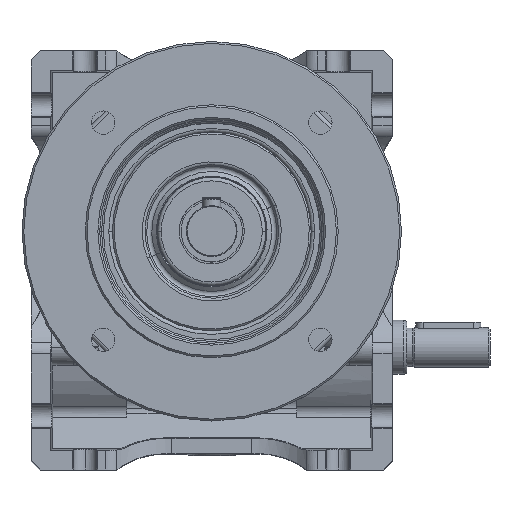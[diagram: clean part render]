
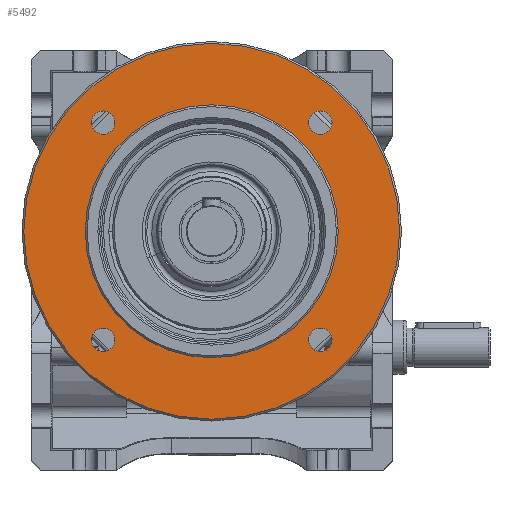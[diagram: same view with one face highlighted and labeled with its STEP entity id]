
A CAD part, top view. The second image highlights one B-rep face of the part: STEP entity #5492.
In plain terms, the highlighted planar face has unit normal (0, 0, 1).
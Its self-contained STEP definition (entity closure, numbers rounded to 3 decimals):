
#857 = ORIENTED_EDGE ( 'NONE', *, *, #40439, .F. ) ;
#1242 = AXIS2_PLACEMENT_3D ( 'NONE', #51030, #15722, #31452 ) ;
#1531 = DIRECTION ( 'NONE',  ( 1., 0., 0. ) ) ;
#1650 = FACE_BOUND ( 'NONE', #49412, .T. ) ;
#1905 = CIRCLE ( 'NONE', #35597, 52. ) ;
#3287 = CARTESIAN_POINT ( 'NONE',  ( 0., 0., 70. ) ) ;
#3717 = EDGE_LOOP ( 'NONE', ( #46247, #42535 ) ) ;
#3771 = CIRCLE ( 'NONE', #40823, 52. ) ;
#4002 = CARTESIAN_POINT ( 'NONE',  ( -35., 0., 70. ) ) ;
#4268 = AXIS2_PLACEMENT_3D ( 'NONE', #45200, #13991, #29711 ) ;
#4500 = ORIENTED_EDGE ( 'NONE', *, *, #37390, .F. ) ;
#4754 = VERTEX_POINT ( 'NONE', #5398 ) ;
#5359 = VERTEX_POINT ( 'NONE', #4002 ) ;
#5398 = CARTESIAN_POINT ( 'NONE',  ( -26.802, 30.052, 70. ) ) ;
#5492 = ADVANCED_FACE ( 'NONE', ( #36933, #32584, #9643, #48572, #21512, #1650 ), #24607, .F. ) ;
#5845 = DIRECTION ( 'NONE',  ( 1., 0., 0. ) ) ;
#5941 = ORIENTED_EDGE ( 'NONE', *, *, #23909, .F. ) ;
#5950 = ORIENTED_EDGE ( 'NONE', *, *, #46668, .T. ) ;
#6039 = DIRECTION ( 'NONE',  ( -1., 0., 0. ) ) ;
#6043 = CIRCLE ( 'NONE', #23327, 3.25 ) ;
#6252 = CIRCLE ( 'NONE', #27623, 3.25 ) ;
#7322 = DIRECTION ( 'NONE',  ( 0., 0., 1. ) ) ;
#7503 = DIRECTION ( 'NONE',  ( -1., 0., 0. ) ) ;
#7634 = ORIENTED_EDGE ( 'NONE', *, *, #44750, .F. ) ;
#8029 = DIRECTION ( 'NONE',  ( 0., 0., 1. ) ) ;
#8170 = AXIS2_PLACEMENT_3D ( 'NONE', #50180, #34953, #19250 ) ;
#8513 = VERTEX_POINT ( 'NONE', #26150 ) ;
#9011 = CIRCLE ( 'NONE', #8170, 3.25 ) ;
#9137 = EDGE_CURVE ( 'NONE', #25015, #8513, #17869, .T. ) ;
#9527 = DIRECTION ( 'NONE',  ( 0., 0., 1. ) ) ;
#9643 = FACE_BOUND ( 'NONE', #32965, .T. ) ;
#9953 = DIRECTION ( 'NONE',  ( 0., 0., 1. ) ) ;
#10941 = CARTESIAN_POINT ( 'NONE',  ( 26.802, 30.052, 70. ) ) ;
#11968 = AXIS2_PLACEMENT_3D ( 'NONE', #22583, #9953, #5845 ) ;
#13322 = CIRCLE ( 'NONE', #4268, 3.25 ) ;
#13550 = CARTESIAN_POINT ( 'NONE',  ( 33.302, 30.052, 70. ) ) ;
#13991 = DIRECTION ( 'NONE',  ( 0., 0., 1. ) ) ;
#15133 = EDGE_CURVE ( 'NONE', #28697, #44763, #41043, .T. ) ;
#15212 = CIRCLE ( 'NONE', #1242, 3.25 ) ;
#15249 = CARTESIAN_POINT ( 'NONE',  ( -30.052, -30.052, 70. ) ) ;
#15545 = CARTESIAN_POINT ( 'NONE',  ( 30.052, 30.052, 70. ) ) ;
#15722 = DIRECTION ( 'NONE',  ( 0., 0., 1. ) ) ;
#17632 = AXIS2_PLACEMENT_3D ( 'NONE', #49533, #23220, #7503 ) ;
#17638 = DIRECTION ( 'NONE',  ( 0., 0., -1. ) ) ;
#17666 = CARTESIAN_POINT ( 'NONE',  ( 33.302, -30.052, 70. ) ) ;
#17869 = CIRCLE ( 'NONE', #24464, 3.25 ) ;
#18748 = DIRECTION ( 'NONE',  ( -1., 0., 0. ) ) ;
#19250 = DIRECTION ( 'NONE',  ( 1., 0., 0. ) ) ;
#19681 = ORIENTED_EDGE ( 'NONE', *, *, #25580, .T. ) ;
#20937 = VERTEX_POINT ( 'NONE', #25799 ) ;
#21512 = FACE_BOUND ( 'NONE', #40121, .T. ) ;
#21662 = EDGE_CURVE ( 'NONE', #45107, #33051, #1905, .T. ) ;
#22396 = DIRECTION ( 'NONE',  ( 0., 0., 1. ) ) ;
#22583 = CARTESIAN_POINT ( 'NONE',  ( -30.052, 30.052, 70. ) ) ;
#23220 = DIRECTION ( 'NONE',  ( 0., 0., -1. ) ) ;
#23327 = AXIS2_PLACEMENT_3D ( 'NONE', #15545, #7322, #31279 ) ;
#23697 = DIRECTION ( 'NONE',  ( -1., 0., 0. ) ) ;
#23909 = EDGE_CURVE ( 'NONE', #49546, #4754, #39149, .T. ) ;
#24265 = EDGE_CURVE ( 'NONE', #44763, #28697, #6252, .T. ) ;
#24464 = AXIS2_PLACEMENT_3D ( 'NONE', #32718, #9527, #1531 ) ;
#24607 = PLANE ( 'NONE',  #48650 ) ;
#25015 = VERTEX_POINT ( 'NONE', #17666 ) ;
#25580 = EDGE_CURVE ( 'NONE', #33051, #45107, #3771, .T. ) ;
#25799 = CARTESIAN_POINT ( 'NONE',  ( 35., 0., 70. ) ) ;
#26100 = VERTEX_POINT ( 'NONE', #10941 ) ;
#26150 = CARTESIAN_POINT ( 'NONE',  ( 26.802, -30.052, 70. ) ) ;
#26934 = EDGE_CURVE ( 'NONE', #20937, #5359, #40100, .T. ) ;
#27623 = AXIS2_PLACEMENT_3D ( 'NONE', #15249, #8029, #50810 ) ;
#27812 = DIRECTION ( 'NONE',  ( 0., 0., 1. ) ) ;
#28697 = VERTEX_POINT ( 'NONE', #30441 ) ;
#28814 = ORIENTED_EDGE ( 'NONE', *, *, #21662, .T. ) ;
#28974 = CARTESIAN_POINT ( 'NONE',  ( 0., 52.5, 70. ) ) ;
#29711 = DIRECTION ( 'NONE',  ( 1., 0., 0. ) ) ;
#29779 = CARTESIAN_POINT ( 'NONE',  ( 0., 0., 70. ) ) ;
#30441 = CARTESIAN_POINT ( 'NONE',  ( -26.802, -30.052, 70. ) ) ;
#30528 = EDGE_CURVE ( 'NONE', #8513, #25015, #9011, .T. ) ;
#31279 = DIRECTION ( 'NONE',  ( 1., 0., 0. ) ) ;
#31452 = DIRECTION ( 'NONE',  ( 1., 0., 0. ) ) ;
#32208 = EDGE_LOOP ( 'NONE', ( #28814, #19681 ) ) ;
#32584 = FACE_BOUND ( 'NONE', #3717, .T. ) ;
#32694 = CARTESIAN_POINT ( 'NONE',  ( -33.302, 30.052, 70. ) ) ;
#32718 = CARTESIAN_POINT ( 'NONE',  ( 30.052, -30.052, 70. ) ) ;
#32965 = EDGE_LOOP ( 'NONE', ( #50309, #51013 ) ) ;
#33051 = VERTEX_POINT ( 'NONE', #41525 ) ;
#33267 = CARTESIAN_POINT ( 'NONE',  ( -52., 0., 70. ) ) ;
#34953 = DIRECTION ( 'NONE',  ( 0., 0., 1. ) ) ;
#35597 = AXIS2_PLACEMENT_3D ( 'NONE', #29779, #48875, #49377 ) ;
#35768 = CARTESIAN_POINT ( 'NONE',  ( 0., 0., 70. ) ) ;
#36933 = FACE_OUTER_BOUND ( 'NONE', #32208, .T. ) ;
#37185 = EDGE_LOOP ( 'NONE', ( #4500, #7634 ) ) ;
#37390 = EDGE_CURVE ( 'NONE', #43151, #26100, #6043, .T. ) ;
#37756 = AXIS2_PLACEMENT_3D ( 'NONE', #42239, #22396, #37834 ) ;
#37834 = DIRECTION ( 'NONE',  ( 1., 0., 0. ) ) ;
#39149 = CIRCLE ( 'NONE', #11968, 3.25 ) ;
#39714 = CIRCLE ( 'NONE', #17632, 35. ) ;
#40100 = CIRCLE ( 'NONE', #49172, 35. ) ;
#40121 = EDGE_LOOP ( 'NONE', ( #857, #5941 ) ) ;
#40439 = EDGE_CURVE ( 'NONE', #4754, #49546, #15212, .T. ) ;
#40823 = AXIS2_PLACEMENT_3D ( 'NONE', #35768, #27812, #23697 ) ;
#41043 = CIRCLE ( 'NONE', #37756, 3.25 ) ;
#41525 = CARTESIAN_POINT ( 'NONE',  ( 52., 0., 70. ) ) ;
#42239 = CARTESIAN_POINT ( 'NONE',  ( -30.052, -30.052, 70. ) ) ;
#42535 = ORIENTED_EDGE ( 'NONE', *, *, #24265, .F. ) ;
#43151 = VERTEX_POINT ( 'NONE', #13550 ) ;
#44750 = EDGE_CURVE ( 'NONE', #26100, #43151, #13322, .T. ) ;
#44763 = VERTEX_POINT ( 'NONE', #45713 ) ;
#45107 = VERTEX_POINT ( 'NONE', #33267 ) ;
#45200 = CARTESIAN_POINT ( 'NONE',  ( 30.052, 30.052, 70. ) ) ;
#45713 = CARTESIAN_POINT ( 'NONE',  ( -33.302, -30.052, 70. ) ) ;
#46247 = ORIENTED_EDGE ( 'NONE', *, *, #15133, .F. ) ;
#46668 = EDGE_CURVE ( 'NONE', #5359, #20937, #39714, .T. ) ;
#47404 = ORIENTED_EDGE ( 'NONE', *, *, #26934, .T. ) ;
#48572 = FACE_BOUND ( 'NONE', #37185, .T. ) ;
#48650 = AXIS2_PLACEMENT_3D ( 'NONE', #28974, #17638, #6039 ) ;
#48875 = DIRECTION ( 'NONE',  ( 0., 0., 1. ) ) ;
#49172 = AXIS2_PLACEMENT_3D ( 'NONE', #3287, #50703, #18748 ) ;
#49377 = DIRECTION ( 'NONE',  ( -1., 0., 0. ) ) ;
#49412 = EDGE_LOOP ( 'NONE', ( #5950, #47404 ) ) ;
#49533 = CARTESIAN_POINT ( 'NONE',  ( 0., 0., 70. ) ) ;
#49546 = VERTEX_POINT ( 'NONE', #32694 ) ;
#50180 = CARTESIAN_POINT ( 'NONE',  ( 30.052, -30.052, 70. ) ) ;
#50309 = ORIENTED_EDGE ( 'NONE', *, *, #9137, .F. ) ;
#50703 = DIRECTION ( 'NONE',  ( 0., 0., -1. ) ) ;
#50810 = DIRECTION ( 'NONE',  ( 1., 0., 0. ) ) ;
#51013 = ORIENTED_EDGE ( 'NONE', *, *, #30528, .F. ) ;
#51030 = CARTESIAN_POINT ( 'NONE',  ( -30.052, 30.052, 70. ) ) ;
